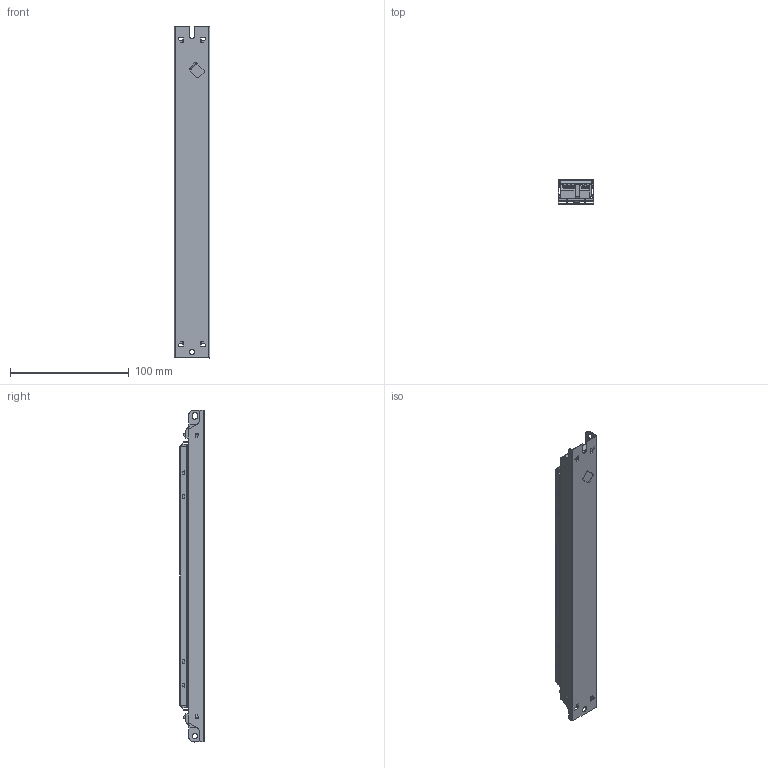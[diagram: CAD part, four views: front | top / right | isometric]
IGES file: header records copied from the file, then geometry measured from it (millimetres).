
Start section: SolidWorks IGES file using analytic representation for surfaces
Global section: file name: C:\Users\vuorinen_kari\Desktop\prj\LL1X110-E-DA\LL1X110-E-DA.IGS; native system: SolidWorks 2014; preprocessor: SolidWorks 2014; author: vuorinen_kari; date: 151014.150117; units: millimetre
Bounding box: 30.08 x 20.8 x 280 mm (x, y, z)
Surface area: 74713.3 mm2 (no closed solid volume)
Topology: 0 solids, 0 shells, 877 faces, 6632 edges, 6632 vertices
Faces by surface type: bspline 611, revolution 266
